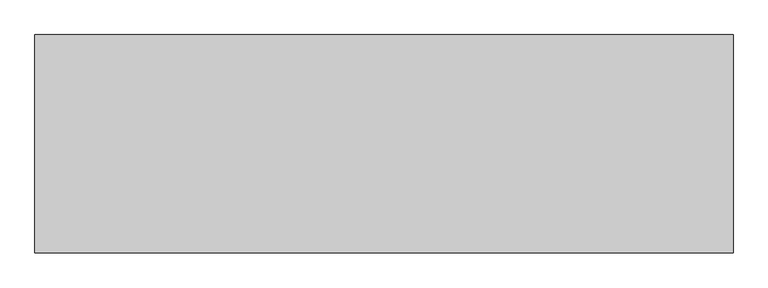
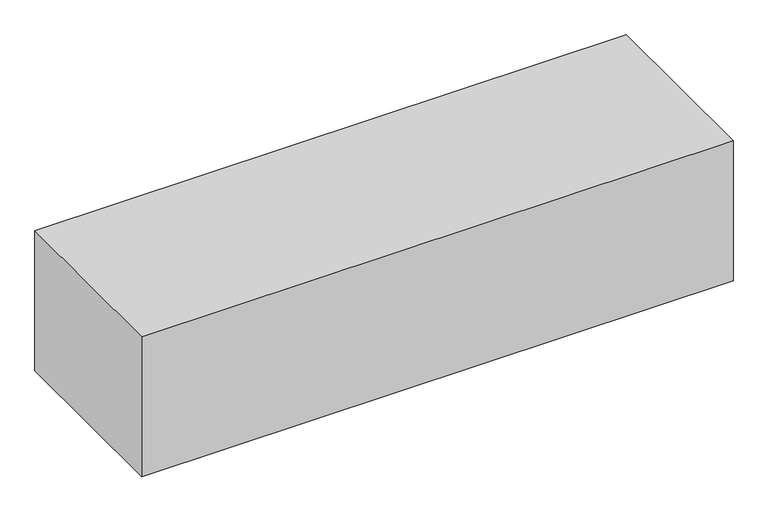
"""IFC4 building model written with IfcOpenShell, lengths in millimetres: geographic element geometry, r 低木密植 : 低木密植."""

from ifc_helpers import new_model, si_unit, origin, origin_with_axes, place, context, project, spatial, polyline, outline, extrude, source, transform, mapped, element, save


def geographic_element_253e0ccf(model_context):
    return source(origin(), model_context, "Body", "SweptSolid", [
        extrude(outline(polyline([(0.0, 0.0), (0.0, 500.0), (1600.0, 500.0), (1600.0, 0.0), (0.0, 0.0)])), origin_with_axes(), (0.0, 0.0, 1.0), 400.0),
    ])


if __name__ == "__main__":
    model = new_model("IFC4")
    model_context = context("Model", 3, world=origin())
    ifc_project = project(units=[si_unit("LENGTHUNIT", "METRE", prefix="MILLI")], contexts=[model_context])
    site = spatial("IfcSite", under=ifc_project)
    building = spatial("IfcBuilding", under=site)
    placement = place(None, origin())
    geographic_element_shape = geographic_element_253e0ccf(model_context)
    element("IfcGeographicElement", 1, ObjectType="r 低木密植 : 低木密植", at=placement, inside=building, context=model_context, shape_type="MappedRepresentation", body=[
        mapped(geographic_element_shape, transform((0.0, 0.0, 0.0), x_axis=(1.0, 0.0, 0.0), y_axis=(0.0, 1.0, 0.0), z_axis=(0.0, 0.0, 1.0))),
    ])
    save(model, "model.ifc")
